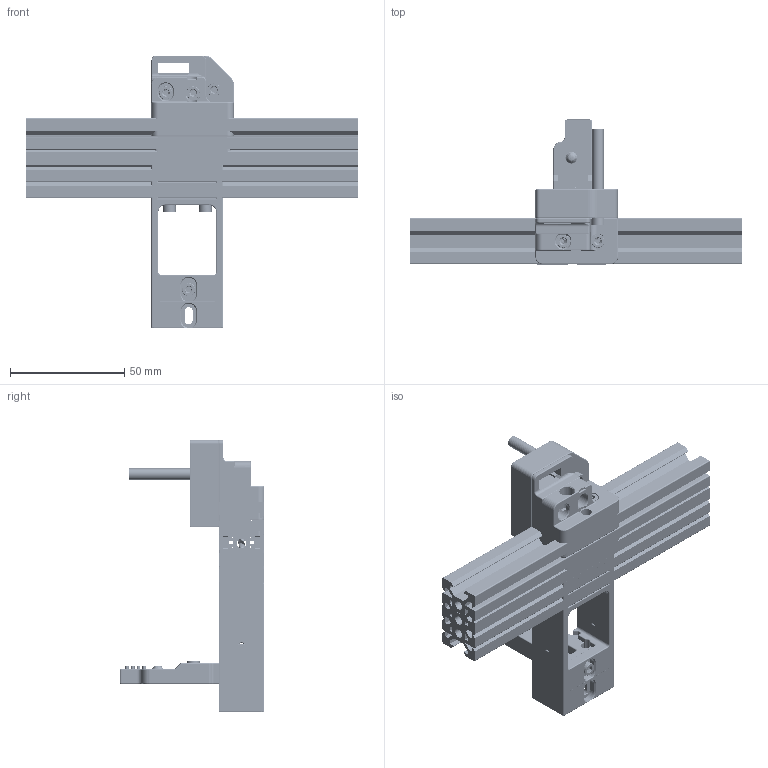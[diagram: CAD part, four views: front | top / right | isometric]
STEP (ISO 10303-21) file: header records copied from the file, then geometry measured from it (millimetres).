
FILE_DESCRIPTION(/* description */ (''),/* implementation_level */ '2;1');
FILE_NAME(/* name */ 'Lineux Hotswap Docks v14.step',/* time_stamp */ '2026-11-17T20:11:10+07:00',/* author */ (''),/* organization */ (''),/* preprocessor_version */ 'ST-DEVELOPER v20.2',/* originating_system */ 'Autodesk Translation Framework v15.17.0.0',/* authorisation */ '');
FILE_SCHEMA (('AUTOMOTIVE_DESIGN { 1 0 10303 214 3 1 1 }'));
Products named in the file (98): Lineux Hotswap Docks; Lineux Hotswap Voron Dock; Dock Mount; m3 x 10mm shcs (3); m3 x 10mm shcs (2); dock_mount; m3 x 10mm shcs (10); m3 x 10mm shcs (9); Dock; m3 od5 35mm threaded dowel pin; m3x5x4mm heat insert (3); m3x5x4mm heat insert (2); m3 x 8mm shcs (5); dock_1; 6 x 3mm n52 magnet; 6 x 3mm n52 magnet (3); Nozzle Blocker; Creality K1 Silicone Brush (2); m3 hex nut; m3 x 6mm shcs; AA battery terminal; m3 washer; m3 washer (1); m3x5x4mm heat insert; [a]_nozzle_blocker; Nozzle Blocker Mount; nozzle_blocker_mount; m3 x 8mm shcs (3); m3 x 8mm shcs (4); m3 x 6mm shcs (7); 2020 Extrusion; Lineux Hotswap Cnc Tap Dock; Dock Mount (1); m3 x 10mm shcs; m3 x 10mm shcs (1); dock_mount (1); m3 x 10mm shcs (4); m3 x 10mm shcs (5); Nozzle Blocker Mount (1); nozzle_blocker_mount (1)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
Assembly tree (97 placements, depth 4):
  Lineux Hotswap Docks
    Lineux Hotswap Voron Dock
      Dock Mount
        m3 x 10mm shcs (3)
        m3 x 10mm shcs (2)
        dock_mount
        m3 x 10mm shcs (10)
        m3 x 10mm shcs (9)
      Dock
        m3 od5 35mm threaded dowel pin
        m3x5x4mm heat insert (3)
        m3x5x4mm heat insert (2)
        m3 x 8mm shcs (5)
        dock_1
        6 x 3mm n52 magnet
        6 x 3mm n52 magnet (3)
      Nozzle Blocker
        Creality K1 Silicone Brush (2)
        m3 hex nut
        m3 x 6mm shcs
        AA battery terminal
        m3 washer
        m3 washer (1)
        m3x5x4mm heat insert
        [a]_nozzle_blocker
      Nozzle Blocker Mount
        nozzle_blocker_mount
        m3 x 8mm shcs (3)
        m3 x 8mm shcs (4)
        m3 x 6mm shcs (7)
      2020 Extrusion
    Lineux Hotswap Cnc Tap Dock
      Dock Mount (1)
        m3 x 10mm shcs
        m3 x 10mm shcs (1)
        dock_mount (1)
        m3 x 10mm shcs (4)
        m3 x 10mm shcs (5)
      Nozzle Blocker Mount (1)
        nozzle_blocker_mount (1)
        m3 x 8mm shcs (6)
        m3 x 8mm shcs (7)
        m3 x 6mm shcs (3)
      Dock (1)
        m3 od5 35mm threaded dowel pin (1)
        m3x5x4mm heat insert (5)
        m3x5x4mm heat insert (6)
        m3 x 8mm shcs (8)
        dock (1)_1
        6 x 3mm n52 magnet (4)
        6 x 3mm n52 magnet (2)
      2020 Extrusion (1)
      Nozzle Blocker (1)
        Creality K1 Silicone Brush (2) (1)
        m3 hex nut (2)
        m3 x 6mm shcs (5)
        AA battery terminal (1)
        m3 washer (2)
        m3 washer (1) (1)
        m3x5x4mm heat insert (4)
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Bounding box: 145 x 63.3 x 119.18 mm (x, y, z)
Volume: 230248.9 mm3; surface area: 172216 mm2
Topology: 79 solids, 79 shells, 5511 faces, 13378 edges, 8136 vertices
Faces by surface type: cylinder 2234, plane 1793, bspline 733, torus 397, cone 193, sphere 161
Full cylindrical faces by diameter (mm): 1.6 x36, 2.5 x15, 2.529 x30, 2.893 x9, 3 x420, 3.086 x15, 3.4 x23, 3.7 x6, 4.2 x3, 4.393 x18, 4.7 x8, 4.75 x4, 5 x3, 5.1 x3, 5.58 x27, 5.68 x27, 6 x6, 6.1 x6, 6.5 x6, 6.6 x6
Entity records: 497962 total; most frequent: CARTESIAN_POINT 373162, ORIENTED_EDGE 26736, DIRECTION 24135, EDGE_CURVE 13368, AXIS2_PLACEMENT_3D 9306, VERTEX_POINT 8136, EDGE_LOOP 5859, LINE 5523
